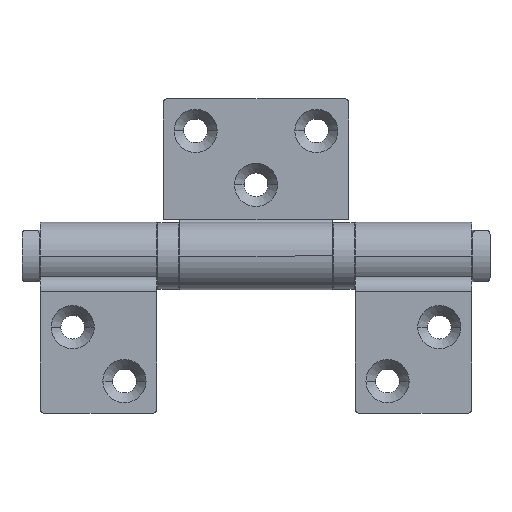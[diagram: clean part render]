
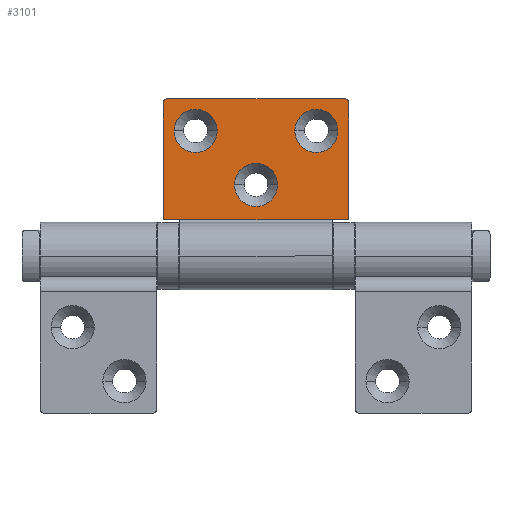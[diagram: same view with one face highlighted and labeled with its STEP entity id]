
A CAD part, left-side view. The second image highlights one B-rep face of the part: STEP entity #3101.
In plain terms, the highlighted planar face has unit normal (-1, 0, 0) as drawn and (1, 0, 0) by its records, which use the part's own axes.
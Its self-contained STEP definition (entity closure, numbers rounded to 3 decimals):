
#15 = CIRCLE ( 'NONE', #2137, 5. ) ;
#63 = DIRECTION ( 'NONE',  ( 0., 0., -1. ) ) ;
#109 = EDGE_LOOP ( 'NONE', ( #516, #1790 ) ) ;
#149 = AXIS2_PLACEMENT_3D ( 'NONE', #2859, #4212, #1189 ) ;
#164 = CIRCLE ( 'NONE', #2632, 1. ) ;
#197 = CARTESIAN_POINT ( 'NONE',  ( -6.1, 8.4, 43. ) ) ;
#202 = VECTOR ( 'NONE', #2622, 1000. ) ;
#218 = EDGE_CURVE ( 'NONE', #4076, #4196, #1069, .T. ) ;
#238 = CARTESIAN_POINT ( 'NONE',  ( -6.1, 29., 30.5 ) ) ;
#333 = EDGE_CURVE ( 'NONE', #4196, #4076, #15, .T. ) ;
#334 = DIRECTION ( 'NONE',  ( -1., 0., 0. ) ) ;
#392 = EDGE_CURVE ( 'NONE', #1282, #2077, #164, .T. ) ;
#463 = CARTESIAN_POINT ( 'NONE',  ( -6.1, 16.5, 16.5 ) ) ;
#488 = LINE ( 'NONE', #4082, #1960 ) ;
#507 = VECTOR ( 'NONE', #4269, 1000. ) ;
#506 = CIRCLE ( 'NONE', #2958, 5. ) ;
#516 = ORIENTED_EDGE ( 'NONE', *, *, #218, .T. ) ;
#565 = ORIENTED_EDGE ( 'NONE', *, *, #2439, .T. ) ;
#568 = CARTESIAN_POINT ( 'NONE',  ( -6.1, 8.4, 43. ) ) ;
#586 = VERTEX_POINT ( 'NONE', #1735 ) ;
#601 = VERTEX_POINT ( 'NONE', #2474 ) ;
#609 = CARTESIAN_POINT ( 'NONE',  ( -6.1, 29., 35.5 ) ) ;
#611 = VECTOR ( 'NONE', #1757, 1000. ) ;
#685 = VERTEX_POINT ( 'NONE', #197 ) ;
#815 = VERTEX_POINT ( 'NONE', #4037 ) ;
#843 = ORIENTED_EDGE ( 'NONE', *, *, #392, .T. ) ;
#861 = VERTEX_POINT ( 'NONE', #3014 ) ;
#891 = LINE ( 'NONE', #568, #507 ) ;
#911 = EDGE_LOOP ( 'NONE', ( #930, #924, #3667, #2232, #3458, #843, #1639, #565, #3024, #3558 ) ) ;
#924 = ORIENTED_EDGE ( 'NONE', *, *, #3439, .T. ) ;
#930 = ORIENTED_EDGE ( 'NONE', *, *, #1810, .T. ) ;
#977 = LINE ( 'NONE', #2288, #1661 ) ;
#1069 = CIRCLE ( 'NONE', #3554, 5. ) ;
#1096 = DIRECTION ( 'NONE',  ( 0., 0., -1. ) ) ;
#1155 = CARTESIAN_POINT ( 'NONE',  ( -6.1, 8.4, 43. ) ) ;
#1181 = AXIS2_PLACEMENT_3D ( 'NONE', #4109, #2141, #3089 ) ;
#1189 = DIRECTION ( 'NONE',  ( 0., 0., 1. ) ) ;
#1215 = DIRECTION ( 'NONE',  ( -1., 0., 0. ) ) ;
#1248 = EDGE_CURVE ( 'NONE', #685, #601, #891, .T. ) ;
#1251 = DIRECTION ( 'NONE',  ( 0., 0., 1. ) ) ;
#1269 = CARTESIAN_POINT ( 'NONE',  ( -6.1, 35.5, 0. ) ) ;
#1272 = CARTESIAN_POINT ( 'NONE',  ( -6.1, 7.85, 0. ) ) ;
#1282 = VERTEX_POINT ( 'NONE', #1269 ) ;
#1356 = ORIENTED_EDGE ( 'NONE', *, *, #2359, .T. ) ;
#1367 = DIRECTION ( 'NONE',  ( 0., 0., 1. ) ) ;
#1381 = VECTOR ( 'NONE', #3607, 1000. ) ;
#1418 = FACE_OUTER_BOUND ( 'NONE', #911, .T. ) ;
#1445 = EDGE_CURVE ( 'NONE', #815, #2254, #1792, .T. ) ;
#1484 = CARTESIAN_POINT ( 'NONE',  ( -6.1, 8.35, 3.8 ) ) ;
#1524 = DIRECTION ( 'NONE',  ( 0., 0., 1. ) ) ;
#1543 = CARTESIAN_POINT ( 'NONE',  ( -6.1, 35.5, 43. ) ) ;
#1605 = CARTESIAN_POINT ( 'NONE',  ( -6.1, 35.5, 42. ) ) ;
#1613 = CARTESIAN_POINT ( 'NONE',  ( -6.1, 16.5, 21.5 ) ) ;
#1639 = ORIENTED_EDGE ( 'NONE', *, *, #1827, .F. ) ;
#1661 = VECTOR ( 'NONE', #3681, 1000. ) ;
#1692 = VECTOR ( 'NONE', #63, 1000. ) ;
#1735 = CARTESIAN_POINT ( 'NONE',  ( -6.1, 29., 12.5 ) ) ;
#1738 = ORIENTED_EDGE ( 'NONE', *, *, #2476, .T. ) ;
#1746 = LINE ( 'NONE', #2765, #4008 ) ;
#1757 = DIRECTION ( 'NONE',  ( 0., -1., 0. ) ) ;
#1761 = EDGE_CURVE ( 'NONE', #861, #586, #3078, .T. ) ;
#1790 = ORIENTED_EDGE ( 'NONE', *, *, #333, .T. ) ;
#1792 = LINE ( 'NONE', #1155, #1692 ) ;
#1810 = EDGE_CURVE ( 'NONE', #601, #2963, #2475, .T. ) ;
#1824 = VERTEX_POINT ( 'NONE', #1543 ) ;
#1827 = EDGE_CURVE ( 'NONE', #3311, #2077, #2603, .T. ) ;
#1879 = CARTESIAN_POINT ( 'NONE',  ( -6.1, 16.5, 21.5 ) ) ;
#1960 = VECTOR ( 'NONE', #1096, 1000. ) ;
#1961 = CARTESIAN_POINT ( 'NONE',  ( -6.1, 36.5, 42. ) ) ;
#1975 = AXIS2_PLACEMENT_3D ( 'NONE', #1605, #3696, #2598 ) ;
#1984 = CARTESIAN_POINT ( 'NONE',  ( -6.1, 35.5, 1. ) ) ;
#2009 = FACE_BOUND ( 'NONE', #2067, .T. ) ;
#2022 = AXIS2_PLACEMENT_3D ( 'NONE', #3589, #1215, #1524 ) ;
#2026 = DIRECTION ( 'NONE',  ( 1., 0., 0. ) ) ;
#2067 = EDGE_LOOP ( 'NONE', ( #2661, #1738 ) ) ;
#2073 = EDGE_CURVE ( 'NONE', #3134, #815, #977, .T. ) ;
#2076 = FACE_BOUND ( 'NONE', #2877, .T. ) ;
#2077 = VERTEX_POINT ( 'NONE', #4354 ) ;
#2096 = CIRCLE ( 'NONE', #2022, 5. ) ;
#2137 = AXIS2_PLACEMENT_3D ( 'NONE', #1613, #3020, #3688 ) ;
#2141 = DIRECTION ( 'NONE',  ( -1., 0., 0. ) ) ;
#2186 = ORIENTED_EDGE ( 'NONE', *, *, #1761, .T. ) ;
#2232 = ORIENTED_EDGE ( 'NONE', *, *, #1445, .T. ) ;
#2254 = VERTEX_POINT ( 'NONE', #4148 ) ;
#2288 = CARTESIAN_POINT ( 'NONE',  ( -6.1, 7.85, 3.8 ) ) ;
#2291 = VERTEX_POINT ( 'NONE', #238 ) ;
#2359 = EDGE_CURVE ( 'NONE', #586, #861, #2821, .T. ) ;
#2439 = EDGE_CURVE ( 'NONE', #3311, #1824, #2612, .T. ) ;
#2474 = CARTESIAN_POINT ( 'NONE',  ( -6.1, 8.4, 39.2 ) ) ;
#2475 = LINE ( 'NONE', #3425, #611 ) ;
#2476 = EDGE_CURVE ( 'NONE', #3723, #2291, #506, .T. ) ;
#2567 = CARTESIAN_POINT ( 'NONE',  ( -6.1, 36.5, 43. ) ) ;
#2571 = DIRECTION ( 'NONE',  ( -1., 0., 0. ) ) ;
#2598 = DIRECTION ( 'NONE',  ( 0., 0., 1. ) ) ;
#2603 = LINE ( 'NONE', #2567, #1381 ) ;
#2612 = CIRCLE ( 'NONE', #1975, 1. ) ;
#2618 = CARTESIAN_POINT ( 'NONE',  ( -6.1, 16.5, 26.5 ) ) ;
#2622 = DIRECTION ( 'NONE',  ( 0., 1., 0. ) ) ;
#2632 = AXIS2_PLACEMENT_3D ( 'NONE', #1984, #2026, #1367 ) ;
#2638 = DIRECTION ( 'NONE',  ( -1., 0., 0. ) ) ;
#2661 = ORIENTED_EDGE ( 'NONE', *, *, #4340, .T. ) ;
#2759 = DIRECTION ( 'NONE',  ( 0., 0., 1. ) ) ;
#2765 = CARTESIAN_POINT ( 'NONE',  ( -6.1, 7.85, 43. ) ) ;
#2811 = CARTESIAN_POINT ( 'NONE',  ( -6.1, 8.35, 39.2 ) ) ;
#2821 = CIRCLE ( 'NONE', #149, 5. ) ;
#2859 = CARTESIAN_POINT ( 'NONE',  ( -6.1, 29., 7.5 ) ) ;
#2877 = EDGE_LOOP ( 'NONE', ( #2186, #1356 ) ) ;
#2958 = AXIS2_PLACEMENT_3D ( 'NONE', #609, #2638, #1251 ) ;
#2963 = VERTEX_POINT ( 'NONE', #2811 ) ;
#3014 = CARTESIAN_POINT ( 'NONE',  ( -6.1, 29., 2.5 ) ) ;
#3020 = DIRECTION ( 'NONE',  ( -1., 0., 0. ) ) ;
#3024 = ORIENTED_EDGE ( 'NONE', *, *, #3905, .F. ) ;
#3078 = CIRCLE ( 'NONE', #1181, 5. ) ;
#3089 = DIRECTION ( 'NONE',  ( 0., 0., 1. ) ) ;
#3093 = FACE_BOUND ( 'NONE', #109, .T. ) ;
#3098 = DIRECTION ( 'NONE',  ( 0., 1., 0. ) ) ;
#3101 = ADVANCED_FACE ( 'NONE', ( #2009, #2076, #3093, #1418 ), #3408, .F. ) ;
#3134 = VERTEX_POINT ( 'NONE', #1484 ) ;
#3200 = AXIS2_PLACEMENT_3D ( 'NONE', #3737, #334, #2759 ) ;
#3306 = CARTESIAN_POINT ( 'NONE',  ( -6.1, 29., 40.5 ) ) ;
#3311 = VERTEX_POINT ( 'NONE', #1961 ) ;
#3408 = PLANE ( 'NONE',  #3200 ) ;
#3425 = CARTESIAN_POINT ( 'NONE',  ( -6.1, 7.85, 39.2 ) ) ;
#3439 = EDGE_CURVE ( 'NONE', #2963, #3134, #488, .T. ) ;
#3458 = ORIENTED_EDGE ( 'NONE', *, *, #3757, .T. ) ;
#3554 = AXIS2_PLACEMENT_3D ( 'NONE', #1879, #2571, #4241 ) ;
#3558 = ORIENTED_EDGE ( 'NONE', *, *, #1248, .T. ) ;
#3589 = CARTESIAN_POINT ( 'NONE',  ( -6.1, 29., 35.5 ) ) ;
#3607 = DIRECTION ( 'NONE',  ( 0., 0., -1. ) ) ;
#3667 = ORIENTED_EDGE ( 'NONE', *, *, #2073, .T. ) ;
#3681 = DIRECTION ( 'NONE',  ( 0., 1., 0. ) ) ;
#3688 = DIRECTION ( 'NONE',  ( 0., 0., 1. ) ) ;
#3696 = DIRECTION ( 'NONE',  ( 1., 0., 0. ) ) ;
#3723 = VERTEX_POINT ( 'NONE', #3306 ) ;
#3737 = CARTESIAN_POINT ( 'NONE',  ( -6.1, 7.85, 43. ) ) ;
#3757 = EDGE_CURVE ( 'NONE', #2254, #1282, #3990, .T. ) ;
#3905 = EDGE_CURVE ( 'NONE', #685, #1824, #1746, .T. ) ;
#3990 = LINE ( 'NONE', #1272, #202 ) ;
#4008 = VECTOR ( 'NONE', #3098, 1000. ) ;
#4037 = CARTESIAN_POINT ( 'NONE',  ( -6.1, 8.4, 3.8 ) ) ;
#4076 = VERTEX_POINT ( 'NONE', #463 ) ;
#4082 = CARTESIAN_POINT ( 'NONE',  ( -6.1, 8.35, 3.8 ) ) ;
#4109 = CARTESIAN_POINT ( 'NONE',  ( -6.1, 29., 7.5 ) ) ;
#4148 = CARTESIAN_POINT ( 'NONE',  ( -6.1, 8.4, 0. ) ) ;
#4196 = VERTEX_POINT ( 'NONE', #2618 ) ;
#4212 = DIRECTION ( 'NONE',  ( -1., 0., 0. ) ) ;
#4241 = DIRECTION ( 'NONE',  ( 0., 0., 1. ) ) ;
#4269 = DIRECTION ( 'NONE',  ( 0., 0., -1. ) ) ;
#4340 = EDGE_CURVE ( 'NONE', #2291, #3723, #2096, .T. ) ;
#4354 = CARTESIAN_POINT ( 'NONE',  ( -6.1, 36.5, 1. ) ) ;
